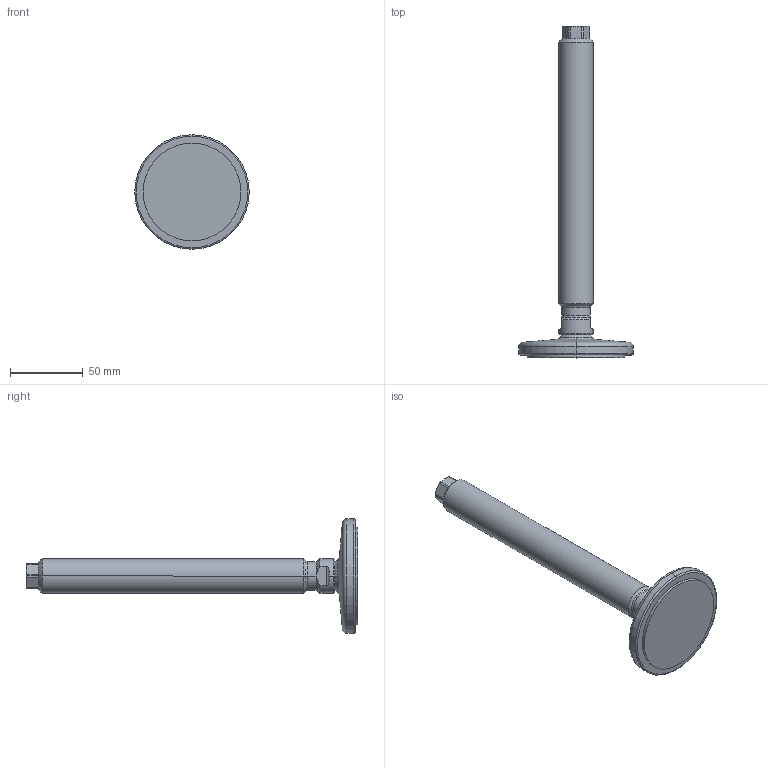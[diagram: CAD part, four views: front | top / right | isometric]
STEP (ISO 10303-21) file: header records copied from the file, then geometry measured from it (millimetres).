
FILE_DESCRIPTION (( 'STEP AP214' ), '1' );
FILE_NAME ('21-80-M24-200-D1-V.step', '2020-10-02T17:36:24', ( '' ), ( '' ), 'SwSTEP 2.0', 'SolidWorks 2019', '' );
FILE_SCHEMA (( 'AUTOMOTIVE_DESIGN' ));
Length unit declared in the file: millimetre
Products named in the file (3): WB21_Fußteller 21^WB21_V_D1-080-R14-B9 (M24); 21-80-M24-200-D1-V; WB21_Spindel_V^WB21_V_M24-200
Assembly tree (2 placements, depth 2):
  21-80-M24-200-D1-V
    WB21_Fußteller 21^WB21_V_D1-080-R14-B9 (M24)
    WB21_Spindel_V^WB21_V_M24-200
Bounding box: 79 x 228.9 x 79 mm (x, y, z)
Volume: 147881.1 mm3; surface area: 28958.1 mm2
Topology: 2 solids, 2 shells, 76 faces, 171 edges, 101 vertices
Faces by surface type: cylinder 25, plane 20, cone 17, torus 10, sphere 4
Entity records: 2399 total; most frequent: CARTESIAN_POINT 517, DIRECTION 390, ORIENTED_EDGE 342, EDGE_CURVE 171, AXIS2_PLACEMENT_3D 166, VERTEX_POINT 101, CIRCLE 85, EDGE_LOOP 78
